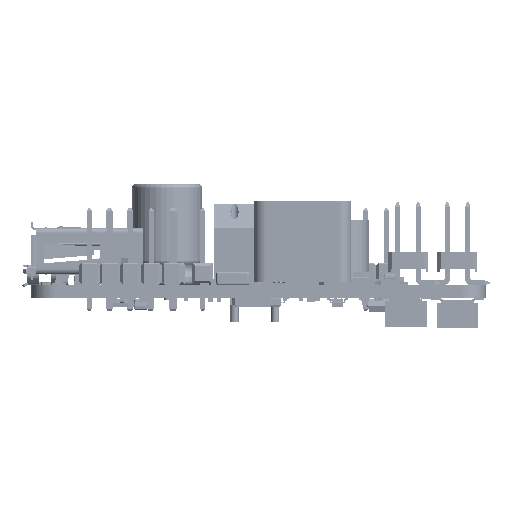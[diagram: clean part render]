
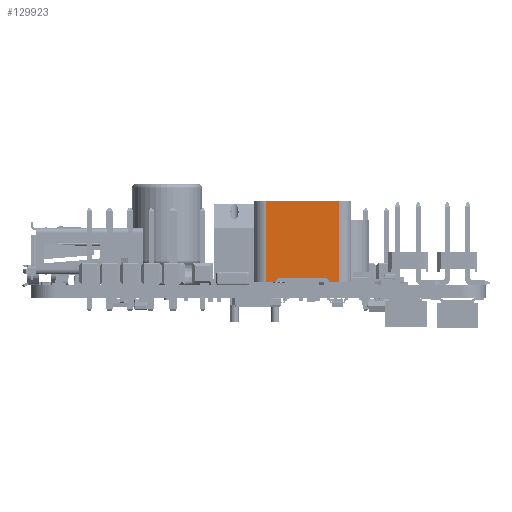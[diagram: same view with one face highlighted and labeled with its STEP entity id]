
A CAD part, left-side view. The second image highlights one B-rep face of the part: STEP entity #129923.
In plain terms, the highlighted planar face has unit normal (-1, 0, 0).
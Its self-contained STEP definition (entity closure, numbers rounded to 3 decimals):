
#129354 = VERTEX_POINT('',#129355);
#129355 = CARTESIAN_POINT('',(-21.325,9.409,16.5));
#129407 = VERTEX_POINT('',#129408);
#129408 = CARTESIAN_POINT('',(-21.325,9.409,7.5));
#129415 = EDGE_CURVE('',#129407,#129354,#129416,.T.);
#129416 = LINE('',#129417,#129418);
#129417 = CARTESIAN_POINT('',(-21.325,9.409,7.5));
#129418 = VECTOR('',#129419,1.);
#129419 = DIRECTION('',(0.,0.,1.));
#129512 = VERTEX_POINT('',#129513);
#129513 = CARTESIAN_POINT('',(-21.325,-0.591,8.65));
#129519 = EDGE_CURVE('',#129520,#129512,#129522,.T.);
#129520 = VERTEX_POINT('',#129521);
#129521 = CARTESIAN_POINT('',(-21.325,-0.591,7.5));
#129522 = LINE('',#129523,#129524);
#129523 = CARTESIAN_POINT('',(-21.325,-0.591,7.5));
#129524 = VECTOR('',#129525,1.);
#129525 = DIRECTION('',(0.,0.,1.));
#129560 = VERTEX_POINT('',#129561);
#129561 = CARTESIAN_POINT('',(-21.325,-0.091,9.));
#129567 = EDGE_CURVE('',#129512,#129560,#129568,.T.);
#129568 = LINE('',#129569,#129570);
#129569 = CARTESIAN_POINT('',(-21.325,-0.091,9.));
#129570 = VECTOR('',#129571,1.);
#129571 = DIRECTION('',(0.,0.819,0.573));
#129654 = VERTEX_POINT('',#129655);
#129655 = CARTESIAN_POINT('',(-21.325,-0.591,16.5));
#129662 = EDGE_CURVE('',#129663,#129654,#129665,.T.);
#129663 = VERTEX_POINT('',#129664);
#129664 = CARTESIAN_POINT('',(-21.325,-0.591,15.35));
#129665 = LINE('',#129666,#129667);
#129666 = CARTESIAN_POINT('',(-21.325,-0.591,7.5));
#129667 = VECTOR('',#129668,1.);
#129668 = DIRECTION('',(0.,0.,1.));
#129685 = VERTEX_POINT('',#129686);
#129686 = CARTESIAN_POINT('',(-21.325,-0.091,15.)
  );
#129701 = EDGE_CURVE('',#129685,#129663,#129702,.T.);
#129702 = LINE('',#129703,#129704);
#129703 = CARTESIAN_POINT('',(-21.325,-0.091,15.)
  );
#129704 = VECTOR('',#129705,1.);
#129705 = DIRECTION('',(0.,-0.819,0.573));
#129723 = EDGE_CURVE('',#129354,#129654,#129724,.T.);
#129724 = LINE('',#129725,#129726);
#129725 = CARTESIAN_POINT('',(-21.325,9.409,16.5));
#129726 = VECTOR('',#129727,1.);
#129727 = DIRECTION('',(0.,-1.,0.));
#129911 = EDGE_CURVE('',#129407,#129520,#129912,.T.);
#129912 = LINE('',#129913,#129914);
#129913 = CARTESIAN_POINT('',(-21.325,9.409,7.5));
#129914 = VECTOR('',#129915,1.);
#129915 = DIRECTION('',(0.,-1.,0.));
#129923 = ADVANCED_FACE('',(#129924),#129939,.F.);
#129924 = FACE_BOUND('',#129925,.T.);
#129925 = EDGE_LOOP('',(#129926,#129932,#129933,#129934,#129935,#129936,
    #129937,#129938));
#129926 = ORIENTED_EDGE('',*,*,#129927,.T.);
#129927 = EDGE_CURVE('',#129560,#129685,#129928,.T.);
#129928 = LINE('',#129929,#129930);
#129929 = CARTESIAN_POINT('',(-21.325,-0.091,15.)
  );
#129930 = VECTOR('',#129931,1.);
#129931 = DIRECTION('',(0.,0.,1.));
#129932 = ORIENTED_EDGE('',*,*,#129701,.T.);
#129933 = ORIENTED_EDGE('',*,*,#129662,.T.);
#129934 = ORIENTED_EDGE('',*,*,#129723,.F.);
#129935 = ORIENTED_EDGE('',*,*,#129415,.F.);
#129936 = ORIENTED_EDGE('',*,*,#129911,.T.);
#129937 = ORIENTED_EDGE('',*,*,#129519,.T.);
#129938 = ORIENTED_EDGE('',*,*,#129567,.T.);
#129939 = PLANE('',#129940);
#129940 = AXIS2_PLACEMENT_3D('',#129941,#129942,#129943);
#129941 = CARTESIAN_POINT('',(-21.325,9.409,7.5));
#129942 = DIRECTION('',(1.,0.,0.));
#129943 = DIRECTION('',(0.,0.,-1.));
